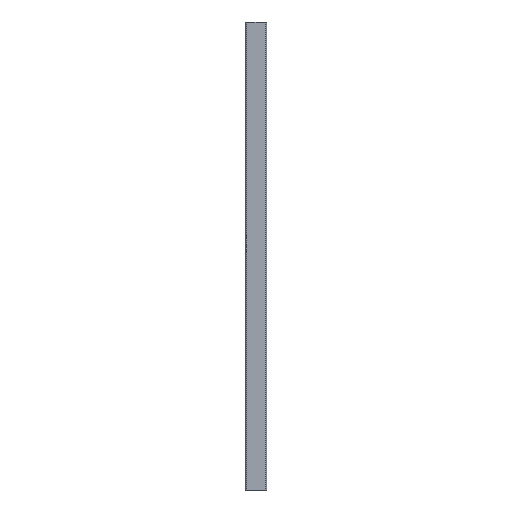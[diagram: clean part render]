
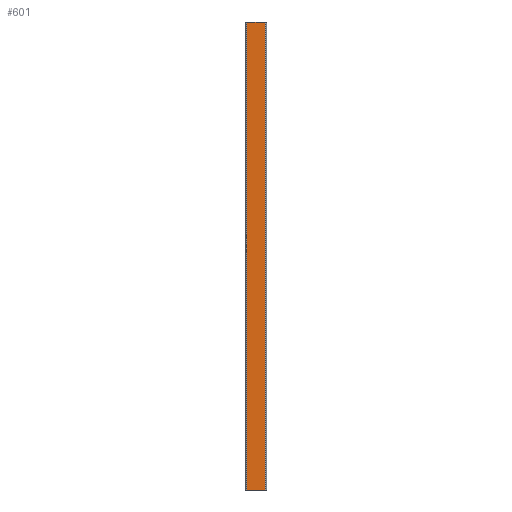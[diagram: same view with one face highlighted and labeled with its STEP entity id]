
A CAD part, left-side view. The second image highlights one B-rep face of the part: STEP entity #601.
In plain terms, the highlighted planar face has unit normal (-1, 0, 0).
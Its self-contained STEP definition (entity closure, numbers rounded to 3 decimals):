
#25 = DIRECTION ( 'NONE',  ( 0., -1., 0. ) ) ;
#59 = CARTESIAN_POINT ( 'NONE',  ( -9., -19.5, 500. ) ) ;
#60 = LINE ( 'NONE', #382, #289 ) ;
#73 = CARTESIAN_POINT ( 'NONE',  ( -9., 19.5, -500. ) ) ;
#113 = CARTESIAN_POINT ( 'NONE',  ( -9., 19.5, 500. ) ) ;
#138 = VECTOR ( 'NONE', #462, 1000. ) ;
#150 = PLANE ( 'NONE',  #355 ) ;
#165 = EDGE_CURVE ( 'NONE', #579, #214, #661, .T. ) ;
#190 = LINE ( 'NONE', #839, #883 ) ;
#214 = VERTEX_POINT ( 'NONE', #283 ) ;
#215 = EDGE_CURVE ( 'NONE', #737, #955, #190, .T. ) ;
#283 = CARTESIAN_POINT ( 'NONE',  ( -9., -19.5, -500. ) ) ;
#289 = VECTOR ( 'NONE', #451, 1000. ) ;
#319 = DIRECTION ( 'NONE',  ( 0., 0., -1. ) ) ;
#355 = AXIS2_PLACEMENT_3D ( 'NONE', #640, #957, #319 ) ;
#379 = ORIENTED_EDGE ( 'NONE', *, *, #165, .T. ) ;
#382 = CARTESIAN_POINT ( 'NONE',  ( -9., 19.5, 500. ) ) ;
#391 = FACE_OUTER_BOUND ( 'NONE', #963, .T. ) ;
#440 = ORIENTED_EDGE ( 'NONE', *, *, #801, .T. ) ;
#451 = DIRECTION ( 'NONE',  ( 0., 0., -1. ) ) ;
#462 = DIRECTION ( 'NONE',  ( 0., 0., 1. ) ) ;
#485 = CARTESIAN_POINT ( 'NONE',  ( -9., 22.5, -500. ) ) ;
#487 = VECTOR ( 'NONE', #25, 1000. ) ;
#498 = ORIENTED_EDGE ( 'NONE', *, *, #215, .F. ) ;
#579 = VERTEX_POINT ( 'NONE', #73 ) ;
#601 = ADVANCED_FACE ( 'NONE', ( #391 ), #150, .F. ) ;
#603 = ORIENTED_EDGE ( 'NONE', *, *, #1003, .T. ) ;
#640 = CARTESIAN_POINT ( 'NONE',  ( -9., 22.5, 500. ) ) ;
#661 = LINE ( 'NONE', #485, #487 ) ;
#694 = LINE ( 'NONE', #860, #138 ) ;
#737 = VERTEX_POINT ( 'NONE', #113 ) ;
#801 = EDGE_CURVE ( 'NONE', #737, #579, #60, .T. ) ;
#839 = CARTESIAN_POINT ( 'NONE',  ( -9., 22.5, 500. ) ) ;
#860 = CARTESIAN_POINT ( 'NONE',  ( -9., -19.5, 500. ) ) ;
#883 = VECTOR ( 'NONE', #990, 1000. ) ;
#955 = VERTEX_POINT ( 'NONE', #59 ) ;
#957 = DIRECTION ( 'NONE',  ( 1., 0., 0. ) ) ;
#963 = EDGE_LOOP ( 'NONE', ( #379, #603, #498, #440 ) ) ;
#990 = DIRECTION ( 'NONE',  ( 0., -1., 0. ) ) ;
#1003 = EDGE_CURVE ( 'NONE', #214, #955, #694, .T. ) ;
